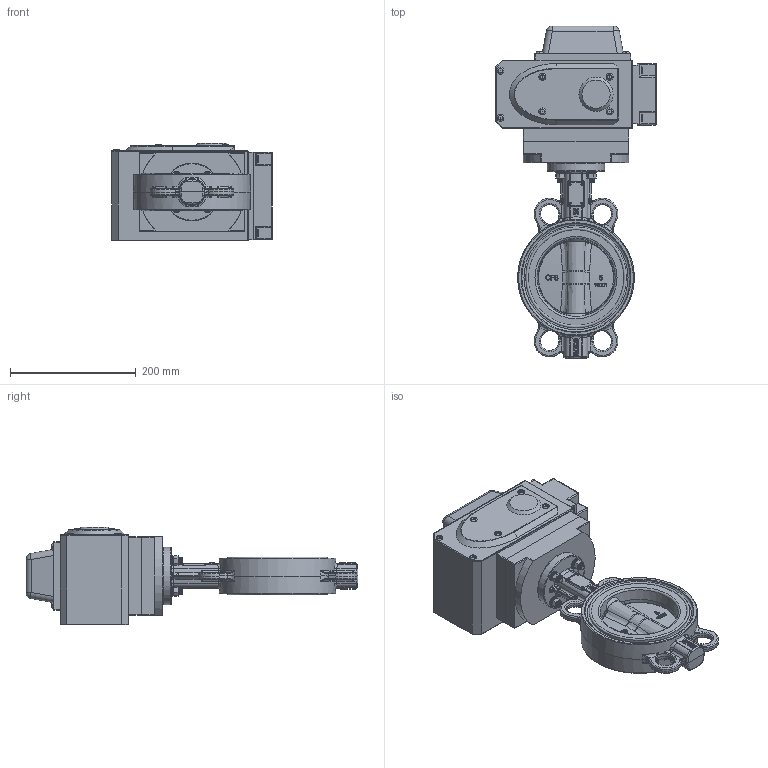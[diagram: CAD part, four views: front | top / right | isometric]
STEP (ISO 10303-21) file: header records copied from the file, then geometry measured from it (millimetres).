
FILE_DESCRIPTION(/* description */ (''),/* implementation_level */ '2;1');
FILE_NAME(/* name */ 'RSV81A220_380-DN125.stp',/* time_stamp */ '2024-08-20T14:18:08+07:00',/* author */ ('Eva'),/* organization */ (''),/* preprocessor_version */ 'ST-DEVELOPER v20',/* originating_system */ 'Autodesk Inventor 2025',/* authorisation */ '');
FILE_SCHEMA (('AUTOMOTIVE_DESIGN { 1 0 10303 214 3 1 1 }'));
Products named in the file (9): RSV81A220_380-DN125; DN125·§Ме; DN125Ин·§Чщ; DN125·§°е; ЖЅµжИ¦ Cј¶(ЖЅµжИ¦C
ј¶ 8); ±кЧјРНµЇ»ЙµжИ¦(±
кЧјРНµЇ»ЙµжИ¦ 8); БщЅЗВЭДё Cј¶(
БщЅЗВЭДё Cј¶  M8-S); ДЪБщЅЗіБН·ВЭ¶¤(ДЪБщЅЗіБН·ВЭ¶¤ 
M8X40-S); ѕ«РЎРНµзЧ°
Assembly tree (24 placements, depth 2):
  RSV81A220_380-DN125
    DN125·§Ме
    DN125Ин·§Чщ
    DN125·§°е
    ДЪБщЅЗіБН·ВЭ¶¤(ДЪБщЅЗіБН·ВЭ¶¤ 
M8X40-S)  x5
    ЖЅµжИ¦ Cј¶(ЖЅµжИ¦C
ј¶ 8)  x5
    ±кЧјРНµЇ»ЙµжИ¦(±
кЧјРНµЇ»ЙµжИ¦ 8)  x5
    БщЅЗВЭДё Cј¶(
БщЅЗВЭДё Cј¶  M8-S)  x5
    ѕ«РЎРНµзЧ°
Bounding box: 256 x 528.91 x 156 mm (x, y, z)
Volume: 6938652.7 mm3; surface area: 474837.1 mm2
Topology: 24 solids, 24 shells, 2245 faces, 5665 edges, 3469 vertices
Faces by surface type: plane 562, cone 526, bspline 499, cylinder 497, torus 133, sphere 28
Full cylindrical faces by diameter (mm): 6.647 x50, 8 x170, 9 x5, 11.037 x4, 11.059 x6, 11.745 x4, 15.24 x5, 16 x5, 19.2 x6, 21.8 x1, 22 x2, 24 x1, 92 x1, 134.3 x2, 160.5 x2
Entity records: 77496 total; most frequent: CARTESIAN_POINT 42395, ORIENTED_EDGE 7704, DIRECTION 6549, EDGE_CURVE 3852, AXIS2_PLACEMENT_3D 2640, VERTEX_POINT 2365, EDGE_LOOP 1627, FACE_OUTER_BOUND 1553
